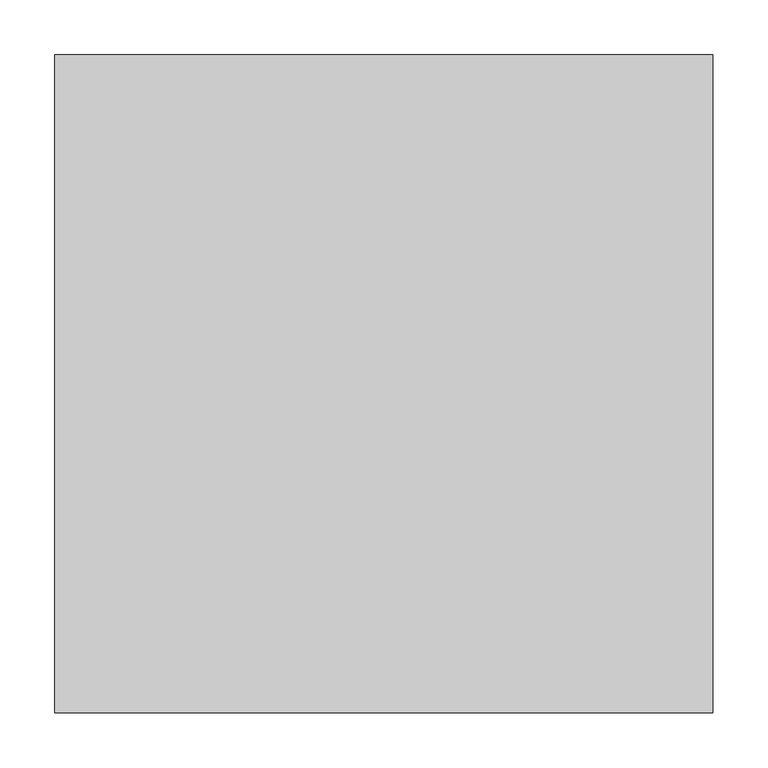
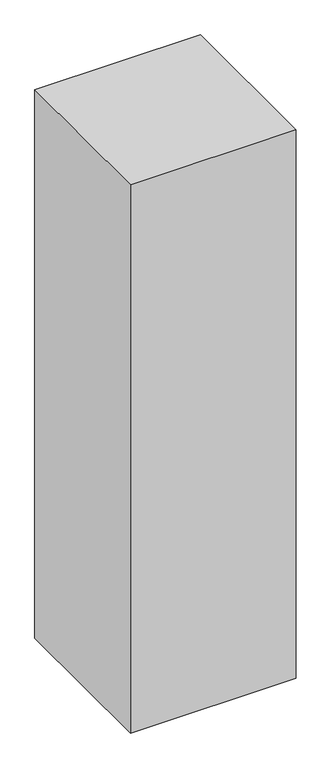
"""IFC4 building model written with IfcOpenShell, lengths in millimetres: proxy geometry, ▲GM_Зона обслуживания : Тип."""

from ifc_helpers import new_model, si_unit, origin, origin_with_axes, place, context, project, spatial, polyline, outline, extrude, source, transform, mapped, element, save


def generic_models_312a6694(model_context):
    return source(origin(), model_context, "Body", "SweptSolid", [
        extrude(outline(polyline([(600.0, -600.0), (0.0, -600.0), (0.0, 0.0), (600.0, 0.0), (600.0, -600.0)])), origin_with_axes(), (0.0, 0.0, 1.0), 2100.0),
    ])


if __name__ == "__main__":
    model = new_model("IFC4")
    model_context = context("Model", 3, world=origin())
    ifc_project = project(units=[si_unit("LENGTHUNIT", "METRE", prefix="MILLI")], contexts=[model_context])
    site = spatial("IfcSite", under=ifc_project)
    building = spatial("IfcBuilding", under=site)
    placement = place(None, origin())
    generic_models_shape = generic_models_312a6694(model_context)
    element("IfcBuildingElementProxy", 1, Name="▲GM_Зона обслуживания : Тип", ObjectType="▲GM_Зона обслуживания : Тип", at=placement, inside=building, context=model_context, shape_type="MappedRepresentation", body=[
        mapped(generic_models_shape, transform((0.0, 0.0, 0.0), x_axis=(1.0, 0.0, 0.0), y_axis=(0.0, 1.0, 0.0), z_axis=(0.0, 0.0, 1.0))),
    ])
    save(model, "model.ifc")
